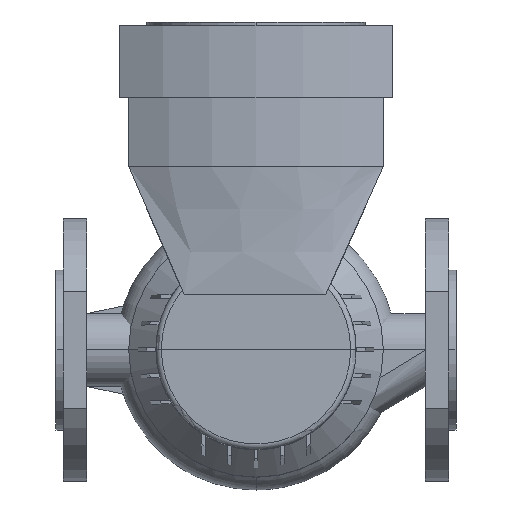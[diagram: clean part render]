
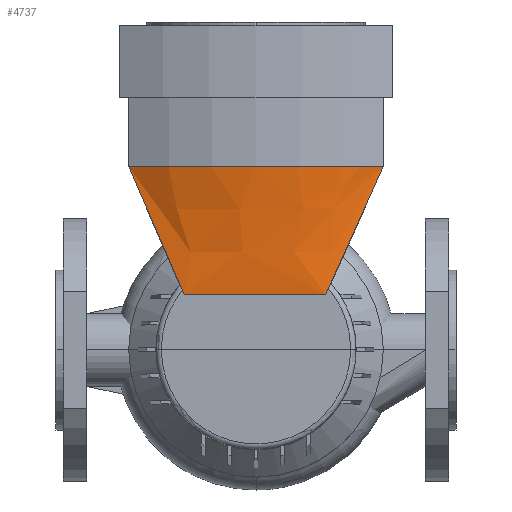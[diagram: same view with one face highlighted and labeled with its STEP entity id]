
A CAD part, top view. The second image highlights one B-rep face of the part: STEP entity #4737.
In plain terms, the highlighted free-form (B-spline) face has degree [3, 3] with [7, 4] control points.
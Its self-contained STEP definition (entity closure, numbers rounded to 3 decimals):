
#55=B_SPLINE_SURFACE_WITH_KNOTS('',3,3,((#8485,#8486,#8487,#8488),(#8489,
#8490,#8491,#8492),(#8493,#8494,#8495,#8496),(#8497,#8498,#8499,#8500),
(#8501,#8502,#8503,#8504),(#8505,#8506,#8507,#8508),(#8509,#8510,#8511,
#8512)),.UNSPECIFIED.,.F.,.F.,.F.,(4,1,1,1,4),(4,4),(0.,0.286,
0.571,0.857,1.),(0.,1.),.UNSPECIFIED.);
#366=FACE_OUTER_BOUND('',#637,.T.);
#637=EDGE_LOOP('',(#3963,#3964,#3965,#3966));
#1072=LINE('',#8453,#1574);
#1088=LINE('',#8484,#1590);
#1089=LINE('',#8526,#1591);
#1574=VECTOR('',#5951,304.8);
#1590=VECTOR('',#5979,304.8);
#1591=VECTOR('',#5980,304.8);
#1808=B_SPLINE_CURVE_WITH_KNOTS('',3,(#8513,#8514,#8515,#8516,#8517,#8518,
#8519,#8520,#8521,#8522,#8523,#8524,#8525),.UNSPECIFIED.,.F.,.F.,(4,3,3,
3,4),(-146.235,-125.344,-83.563,-41.781,
0.),.UNSPECIFIED.);
#2144=VERTEX_POINT('',#8449);
#2146=VERTEX_POINT('',#8452);
#2154=VERTEX_POINT('',#8480);
#2155=VERTEX_POINT('',#8482);
#2761=EDGE_CURVE('',#2146,#2144,#1072,.T.);
#2777=EDGE_CURVE('',#2154,#2155,#1088,.T.);
#2778=EDGE_CURVE('',#2154,#2144,#1808,.T.);
#2779=EDGE_CURVE('',#2146,#2155,#1089,.T.);
#3963=ORIENTED_EDGE('',*,*,#2778,.F.);
#3964=ORIENTED_EDGE('',*,*,#2777,.T.);
#3965=ORIENTED_EDGE('',*,*,#2779,.F.);
#3966=ORIENTED_EDGE('',*,*,#2761,.T.);
#4737=ADVANCED_FACE('',(#366),#55,.T.);
#5951=DIRECTION('',(0.405,0.9,-0.165));
#5979=DIRECTION('',(0.392,-0.905,0.166));
#5980=DIRECTION('',(-1.,0.,0.));
#8449=CARTESIAN_POINT('',(26438.617,-43380.739,225.072));
#8452=CARTESIAN_POINT('',(26406.909,-43451.239,238.));
#8453=CARTESIAN_POINT('',(26406.909,-43451.239,238.));
#8480=CARTESIAN_POINT('',(26298.617,-43380.739,225.072));
#8482=CARTESIAN_POINT('',(26329.145,-43451.239,238.));
#8484=CARTESIAN_POINT('',(26298.617,-43380.739,225.072));
#8485=CARTESIAN_POINT('Ctrl Pts',(26438.617,-43380.739,225.072));
#8486=CARTESIAN_POINT('Ctrl Pts',(26428.047,-43404.239,229.382));
#8487=CARTESIAN_POINT('Ctrl Pts',(26417.478,-43427.739,233.691));
#8488=CARTESIAN_POINT('Ctrl Pts',(26406.909,-43451.239,238.));
#8489=CARTESIAN_POINT('Ctrl Pts',(26426.42,-43380.739,231.758));
#8490=CARTESIAN_POINT('Ctrl Pts',(26417.447,-43404.239,233.838));
#8491=CARTESIAN_POINT('Ctrl Pts',(26408.476,-43427.739,235.92));
#8492=CARTESIAN_POINT('Ctrl Pts',(26399.503,-43451.239,238.));
#8493=CARTESIAN_POINT('Ctrl Pts',(26400.099,-43380.739,241.609));
#8494=CARTESIAN_POINT('Ctrl Pts',(26394.963,-43404.239,240.406));
#8495=CARTESIAN_POINT('Ctrl Pts',(26389.827,-43427.739,239.204));
#8496=CARTESIAN_POINT('Ctrl Pts',(26384.691,-43451.239,238.));
#8497=CARTESIAN_POINT('Ctrl Pts',(26358.049,-43380.739,244.629));
#8498=CARTESIAN_POINT('Ctrl Pts',(26359.523,-43404.239,242.419));
#8499=CARTESIAN_POINT('Ctrl Pts',(26360.998,-43427.739,240.21));
#8500=CARTESIAN_POINT('Ctrl Pts',(26362.473,-43451.239,238.));
#8501=CARTESIAN_POINT('Ctrl Pts',(26323.727,-43380.739,237.136));
#8502=CARTESIAN_POINT('Ctrl Pts',(26330.471,-43404.239,237.424));
#8503=CARTESIAN_POINT('Ctrl Pts',(26337.214,-43427.739,237.712));
#8504=CARTESIAN_POINT('Ctrl Pts',(26343.957,-43451.239,238.));
#8505=CARTESIAN_POINT('Ctrl Pts',(26304.715,-43380.739,228.415));
#8506=CARTESIAN_POINT('Ctrl Pts',(26314.092,-43404.239,231.611));
#8507=CARTESIAN_POINT('Ctrl Pts',(26323.471,-43427.739,234.804));
#8508=CARTESIAN_POINT('Ctrl Pts',(26332.848,-43451.239,238.));
#8509=CARTESIAN_POINT('Ctrl Pts',(26298.617,-43380.739,225.072));
#8510=CARTESIAN_POINT('Ctrl Pts',(26308.793,-43404.239,229.382));
#8511=CARTESIAN_POINT('Ctrl Pts',(26318.969,-43427.739,233.691));
#8512=CARTESIAN_POINT('Ctrl Pts',(26329.145,-43451.239,238.));
#8513=CARTESIAN_POINT('Ctrl Pts',(26298.617,-43380.739,225.072));
#8514=CARTESIAN_POINT('Ctrl Pts',(26304.715,-43380.739,228.415));
#8515=CARTESIAN_POINT('Ctrl Pts',(26311.052,-43380.739,231.322));
#8516=CARTESIAN_POINT('Ctrl Pts',(26317.565,-43380.739,233.76));
#8517=CARTESIAN_POINT('Ctrl Pts',(26330.592,-43380.739,238.635));
#8518=CARTESIAN_POINT('Ctrl Pts',(26344.32,-43380.739,241.632));
#8519=CARTESIAN_POINT('Ctrl Pts',(26358.193,-43380.739,242.627));
#8520=CARTESIAN_POINT('Ctrl Pts',(26372.066,-43380.739,243.623));
#8521=CARTESIAN_POINT('Ctrl Pts',(26386.082,-43380.739,242.616));
#8522=CARTESIAN_POINT('Ctrl Pts',(26399.671,-43380.739,239.65));
#8523=CARTESIAN_POINT('Ctrl Pts',(26413.259,-43380.739,236.684));
#8524=CARTESIAN_POINT('Ctrl Pts',(26426.42,-43380.739,231.758));
#8525=CARTESIAN_POINT('Ctrl Pts',(26438.617,-43380.739,225.072));
#8526=CARTESIAN_POINT('',(26406.909,-43451.239,238.));
